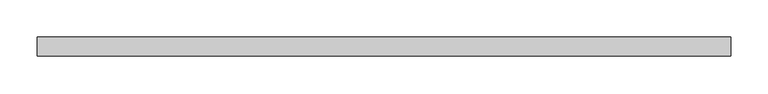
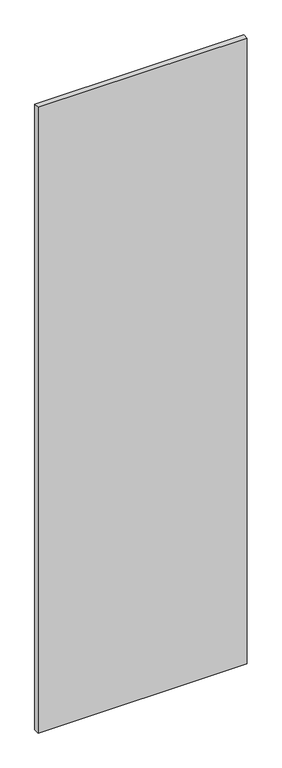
"""IFC4 building model written with IfcOpenShell, lengths in millimetres: plate geometry, Системная панель : ADSK_Cтеклопакет_25."""

import ifcopenshell
import ifcopenshell.guid

model = None  # the IFC model being written
_history = None  # IfcOwnerHistory: only IFC2X3 demands one
_inside = {}  # id of a spatial element -> (the spatial element, [elements in it])
_under = {}  # id of a project, library or spatial element -> (it, [spatial elements below it])
_declared = {}  # id of a project -> (the project, [libraries it declares])
_typed = {}  # id of a type object -> (the type object, [elements of that type])
_made_of = {}  # id of a material, layer set ... -> (it, [elements and type objects made of it])


def new_model(schema):
    """Start an empty IFC model of exactly this schema.

    Asked for "IFC4X3", IfcOpenShell would pick the latest addendum, in which some entities
    have other attributes; the version numbers below select the first issue.
    IFC2X3 requires an IfcOwnerHistory on every rooted entity: one is made here for all.
    """
    global model, _history
    if schema == "IFC4X3":
        model = ifcopenshell.file(schema_version=(4, 3, 0, 0))
    else:
        model = ifcopenshell.file(schema=schema)
    _inside.clear()
    _under.clear()
    _declared.clear()
    _typed.clear()
    _made_of.clear()
    _history = None
    if model.schema == "IFC2X3":
        org = make("IfcOrganization", Name="unknown")
        user = make(
            "IfcPersonAndOrganization",
            ThePerson=make("IfcPerson", FamilyName="unknown"),
            TheOrganization=org,
        )
        app = make(
            "IfcApplication",
            ApplicationDeveloper=org,
            Version="unknown",
            ApplicationFullName="unknown",
            ApplicationIdentifier="unknown",
        )
        _history = make(
            "IfcOwnerHistory",
            OwningUser=user,
            OwningApplication=app,
            ChangeAction="ADDED",
            CreationDate=0,
        )
    return model


def make(cls, **values):
    """One entity of the class cls with the attributes given. An attribute that is None is left unset."""
    return model.create_entity(
        cls, **{name: value for name, value in values.items() if value is not None}
    )


def rooted(cls, **values):
    """An entity with a GlobalId (a new one), such as an element, a storey or a relation."""
    return make(cls, GlobalId=ifcopenshell.guid.new(), OwnerHistory=_history, **values)


def si_unit(unit_type, name, prefix=None):
    """IfcSIUnit, for example si_unit("LENGTHUNIT", "METRE", prefix="MILLI")."""
    return make("IfcSIUnit", UnitType=unit_type, Prefix=prefix, Name=name)


def assignment(units):
    """IfcUnitAssignment: the units of a project."""
    return None if units is None else make("IfcUnitAssignment", Units=units)


def point(xyz):
    """IfcCartesianPoint."""
    return None if xyz is None else make("IfcCartesianPoint", Coordinates=xyz)


def direction(xyz):
    """IfcDirection."""
    return None if xyz is None else make("IfcDirection", DirectionRatios=xyz)


def frame(location, z_axis=None, x_axis=None):
    """IfcAxis2Placement3D, a coordinate frame: its origin and axes. An axis left out is left unset."""
    return make(
        "IfcAxis2Placement3D",
        Location=point(location),
        Axis=direction(z_axis),
        RefDirection=direction(x_axis),
    )


def origin():
    """The frame at (0, 0, 0) with its axes left unset."""
    return frame((0.0, 0.0, 0.0))


def origin_with_axes():
    """The frame at (0, 0, 0) with the z axis (0, 0, 1) and the x axis (1, 0, 0) written out."""
    return frame((0.0, 0.0, 0.0), z_axis=(0.0, 0.0, 1.0), x_axis=(1.0, 0.0, 0.0))


def place(relative_to, where):
    """IfcLocalPlacement: puts the frame where relative to a parent placement (None: the world)."""
    return make(
        "IfcLocalPlacement", PlacementRelTo=relative_to, RelativePlacement=where
    )


def context(
    kind, dimensions, precision=None, world=None, true_north=None, identifier=None
):
    """IfcGeometricRepresentationContext, for example the 3D "Model" context."""
    return make(
        "IfcGeometricRepresentationContext",
        ContextIdentifier=identifier,
        ContextType=kind,
        CoordinateSpaceDimension=dimensions,
        Precision=precision,
        WorldCoordinateSystem=world,
        TrueNorth=true_north,
    )


def project(units=None, contexts=None):
    """IfcProject with its units and contexts."""
    return rooted(
        "IfcProject",
        Name="project",
        RepresentationContexts=contexts,
        UnitsInContext=assignment(units),
    )


def spatial(cls, under=None, at=None, **own):
    """A site, building, storey or space (cls), placed at a placement, below another one or the project."""
    s = rooted(cls, ObjectPlacement=at, **own)
    if under is not None:
        _under.setdefault(under.id(), (under, []))[1].append(s)
    return s


def polyline(points):
    """IfcPolyline through the points."""
    return make("IfcPolyline", Points=[point(p) for p in points])


def outline(outer, holes=None, kind="AREA"):
    """IfcArbitraryClosedProfileDef: a profile drawn as a closed curve; with holes, ...WithVoids."""
    if holes is None:
        return make("IfcArbitraryClosedProfileDef", ProfileType=kind, OuterCurve=outer)
    return make(
        "IfcArbitraryProfileDefWithVoids",
        ProfileType=kind,
        OuterCurve=outer,
        InnerCurves=holes,
    )


def extrude(swept, where, along, depth):
    """IfcExtrudedAreaSolid: the profile swept, set in the frame where, extruded along a direction by depth."""
    return make(
        "IfcExtrudedAreaSolid",
        SweptArea=swept,
        Position=where,
        ExtrudedDirection=direction(along),
        Depth=depth,
    )


def shape(context_of_items, identifier, shape_type, items):
    """IfcShapeRepresentation: the items that make up one representation, for example the "Body"."""
    return make(
        "IfcShapeRepresentation",
        ContextOfItems=context_of_items,
        RepresentationIdentifier=identifier,
        RepresentationType=shape_type,
        Items=items,
    )


def source(mapping_origin, context_of_items, identifier, shape_type, items):
    """IfcRepresentationMap: a shape defined once, which mapped items show again and again."""
    return make(
        "IfcRepresentationMap",
        MappingOrigin=mapping_origin,
        MappedRepresentation=shape(context_of_items, identifier, shape_type, items),
    )


def transform(
    local_origin,
    x_axis=None,
    y_axis=None,
    z_axis=None,
    scale=None,
    scale2=None,
    scale3=None,
    uniform=True,
):
    """IfcCartesianTransformationOperator3D, or its non-uniform kind. x_axis, y_axis, z_axis: its Axis1, 2, 3."""
    if uniform:
        return make(
            "IfcCartesianTransformationOperator3D",
            Axis1=direction(x_axis),
            Axis2=direction(y_axis),
            LocalOrigin=point(local_origin),
            Scale=scale,
            Axis3=direction(z_axis),
        )
    return make(
        "IfcCartesianTransformationOperator3DnonUniform",
        Axis1=direction(x_axis),
        Axis2=direction(y_axis),
        LocalOrigin=point(local_origin),
        Scale=scale,
        Axis3=direction(z_axis),
        Scale2=scale2,
        Scale3=scale3,
    )


def mapped(mapping_source, mapping_target):
    """IfcMappedItem: shows the shape of a source again, moved by a transform."""
    return make(
        "IfcMappedItem", MappingSource=mapping_source, MappingTarget=mapping_target
    )


def made_of(thing, what):
    """Note that an element or type object is made of a material, layer set ...; save() writes the relation."""
    if what is not None:
        _made_of.setdefault(what.id(), (what, []))[1].append(thing)
    return thing


def element(
    cls,
    number,
    at=None,
    inside=None,
    cuts=None,
    type_object=None,
    material=None,
    context=None,
    identifier="Body",
    shape_type=None,
    held_by="IfcProductDefinitionShape",
    body=None,
    shapes=None,
    **own,
):
    """One element of the class cls, such as IfcWall. Its Tag is "e" and its number.

    at: its placement. inside: the storey or other place that contains it. cuts: it is an
    opening in that element (IfcRelVoidsElement). A single representation is given by context,
    identifier, shape_type and body (its items); several are given by shapes. held_by: the class
    of the entity that holds the representations. save() writes the other relations.
    """
    e = rooted(cls, Tag="e%d" % number, ObjectPlacement=at, **own)
    if body is not None:
        shapes = [shape(context, identifier, shape_type, body)]
    if shapes is not None:
        e.Representation = make(held_by, Representations=shapes)
    if inside is not None:
        _inside.setdefault(inside.id(), (inside, []))[1].append(e)
    if cuts is not None:
        rooted(
            "IfcRelVoidsElement", RelatingBuildingElement=cuts, RelatedOpeningElement=e
        )
    if type_object is not None:
        _typed.setdefault(type_object.id(), (type_object, []))[1].append(e)
    return made_of(e, material)


def aggregate(whole, parts):
    """IfcRelAggregates: a whole, such as a stair, and the parts it consists of."""
    return rooted("IfcRelAggregates", RelatingObject=whole, RelatedObjects=parts)


def save(model, path):
    """Write the relations noted so far, then the file.

    IfcRelAggregates (storeys below a building ...), IfcRelContainedInSpatialStructure (elements
    in a storey), IfcRelDefinesByType, IfcRelAssociatesMaterial and IfcRelDeclares: one each for
    every whole, place, type object, material and project.
    """
    for whole, parts in _under.values():
        aggregate(whole, parts)
    for where, things in _inside.values():
        rooted(
            "IfcRelContainedInSpatialStructure",
            RelatedElements=things,
            RelatingStructure=where,
        )
    for kind, things in _typed.values():
        rooted("IfcRelDefinesByType", RelatedObjects=things, RelatingType=kind)
    for what, things in _made_of.values():
        rooted("IfcRelAssociatesMaterial", RelatedObjects=things, RelatingMaterial=what)
    for by, libraries in _declared.values():
        rooted("IfcRelDeclares", RelatingContext=by, RelatedDefinitions=libraries)
    model.write(path)


def plate_8c76a23d(model_context):
    return source(origin(), model_context, "Body", "SweptSolid", [
        extrude(outline(polyline([(462.5, -12.5), (-462.5, -12.5), (-462.5, 12.5), (462.5, 12.5), (462.5, -12.5)])), origin_with_axes(), (0.0, 0.0, 1.0), 2925.0),
    ])


if __name__ == "__main__":
    model = new_model("IFC4")
    model_context = context("Model", 3, world=origin())
    ifc_project = project(units=[si_unit("LENGTHUNIT", "METRE", prefix="MILLI")], contexts=[model_context])
    site = spatial("IfcSite", under=ifc_project)
    building = spatial("IfcBuilding", under=site)
    placement = place(None, origin())
    plate_shape = plate_8c76a23d(model_context)
    element("IfcPlate", 1, ObjectType="Системная панель : ADSK_Cтеклопакет_25", at=placement, inside=building, context=model_context, shape_type="MappedRepresentation", body=[
        mapped(plate_shape, transform((0.0, 0.0, 0.0), x_axis=(1.0, 0.0, 0.0), y_axis=(0.0, 1.0, 0.0), z_axis=(0.0, 0.0, 1.0))),
    ])
    save(model, "model.ifc")
